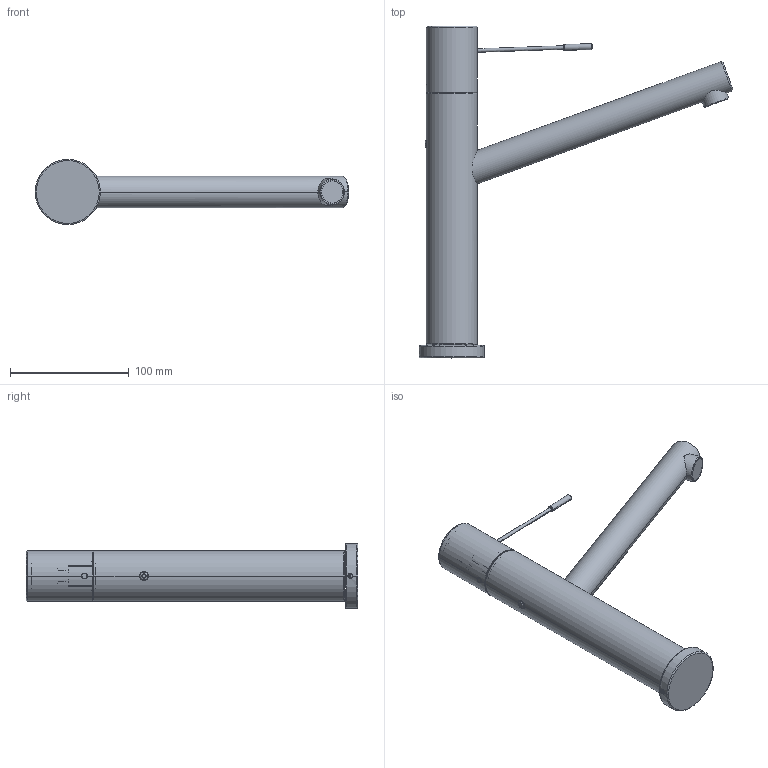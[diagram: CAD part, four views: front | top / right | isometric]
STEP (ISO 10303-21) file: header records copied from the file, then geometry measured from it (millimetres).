
FILE_DESCRIPTION((''),'2;1');
FILE_NAME('10_151_043_XXX','2012-10-04T',('lff'),(''),'PRO/ENGINEER BY PARAMETRIC TECHNOLOGY CORPORATION, 2011080','PRO/ENGINEER BY PARAMETRIC TECHNOLOGY CORPORATION, 2011080','');
FILE_SCHEMA(('AUTOMOTIVE_DESIGN_CC2 { 1 2 10303 214 -1 1 5 2 }'));
Length unit declared in the file: millimetre
Products named in the file (1): 10_151_043_XXX
Bounding box: 264.55 x 279.95 x 55 mm (x, y, z)
Volume: 164482.2 mm3; surface area: 133225.5 mm2
Topology: 3 solids, 4 shells, 505 faces, 1349 edges, 856 vertices
Faces by surface type: plane 210, cylinder 168, cone 74, torus 49, bspline 4
Entity records: 25312 total; most frequent: CARTESIAN_POINT 7286, ORIENTED_EDGE 2690, DIRECTION 2672, EDGE_CURVE 1345, AXIS2_PLACEMENT_3D 1004, FILL_AREA_STYLE_COLOUR 857, FILL_AREA_STYLE 857, SURFACE_STYLE_FILL_AREA 857
